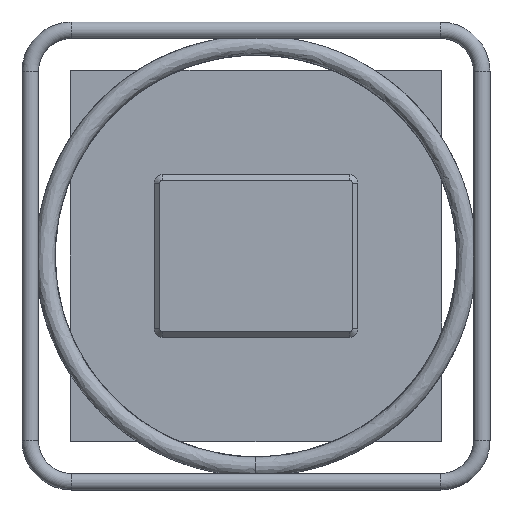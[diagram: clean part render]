
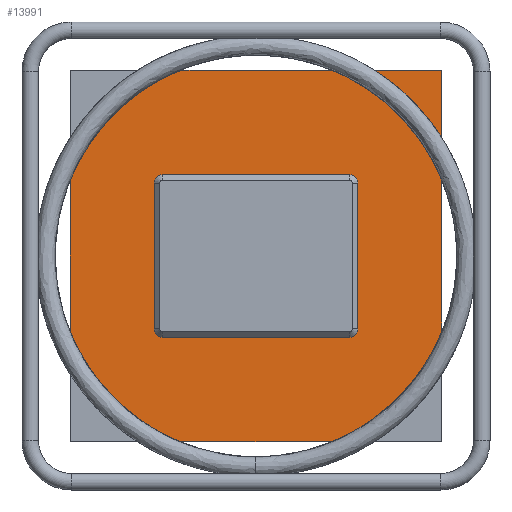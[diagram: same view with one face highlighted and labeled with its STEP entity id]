
A CAD part, front view. The second image highlights one B-rep face of the part: STEP entity #13991.
In plain terms, the highlighted planar face has unit normal (0, -1, 0).
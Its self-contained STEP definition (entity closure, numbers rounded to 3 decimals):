
#2148=LINE('',#27886,#3318);
#2151=LINE('',#27897,#3321);
#2155=LINE('',#27909,#3325);
#2159=LINE('',#27921,#3329);
#2166=LINE('',#27936,#3336);
#2167=LINE('',#27937,#3337);
#2168=LINE('',#27939,#3338);
#2169=LINE('',#27940,#3339);
#3318=VECTOR('',#16476,136.);
#3321=VECTOR('',#16487,106.);
#3325=VECTOR('',#16499,136.);
#3329=VECTOR('',#16511,106.);
#3336=VECTOR('',#16534,144.);
#3337=VECTOR('',#16535,144.);
#3338=VECTOR('',#16536,207.);
#3339=VECTOR('',#16537,207.);
#3687=PLANE('',#14456);
#3835=FACE_BOUND('',#5409,.T.);
#4564=FACE_OUTER_BOUND('',#5408,.T.);
#5408=EDGE_LOOP('',(#12433,#12434,#12435,#12436,#12437,#12438,#12439));
#5409=EDGE_LOOP('',(#12440,#12441,#12442,#12443,#12444,#12445,#12446,#12447));
#5474=CIRCLE('',#14383,153.);
#5475=CIRCLE('',#14384,153.);
#5476=CIRCLE('',#14385,153.);
#5500=CIRCLE('',#14438,6.);
#5502=CIRCLE('',#14442,6.);
#5504=CIRCLE('',#14446,6.);
#5506=CIRCLE('',#14450,6.);
#6736=VERTEX_POINT('',#27771);
#6737=VERTEX_POINT('',#27772);
#6738=VERTEX_POINT('',#27774);
#6739=VERTEX_POINT('',#27775);
#6740=VERTEX_POINT('',#27777);
#6741=VERTEX_POINT('',#27778);
#6776=VERTEX_POINT('',#27879);
#6779=VERTEX_POINT('',#27884);
#6781=VERTEX_POINT('',#27889);
#6783=VERTEX_POINT('',#27895);
#6785=VERTEX_POINT('',#27901);
#6787=VERTEX_POINT('',#27907);
#6789=VERTEX_POINT('',#27913);
#6791=VERTEX_POINT('',#27919);
#6792=VERTEX_POINT('',#27938);
#8615=EDGE_CURVE('',#6736,#6737,#5474,.T.);
#8616=EDGE_CURVE('',#6738,#6739,#5475,.T.);
#8617=EDGE_CURVE('',#6740,#6741,#5476,.T.);
#8658=EDGE_CURVE('',#6779,#6776,#2148,.T.);
#8660=EDGE_CURVE('',#6781,#6779,#5500,.T.);
#8663=EDGE_CURVE('',#6783,#6781,#2151,.T.);
#8666=EDGE_CURVE('',#6785,#6783,#5502,.T.);
#8669=EDGE_CURVE('',#6787,#6785,#2155,.T.);
#8672=EDGE_CURVE('',#6789,#6787,#5504,.T.);
#8675=EDGE_CURVE('',#6791,#6789,#2159,.T.);
#8677=EDGE_CURVE('',#6776,#6791,#5506,.T.);
#8684=EDGE_CURVE('',#6738,#6737,#2166,.T.);
#8685=EDGE_CURVE('',#6740,#6739,#2167,.T.);
#8686=EDGE_CURVE('',#6792,#6741,#2168,.T.);
#8687=EDGE_CURVE('',#6736,#6792,#2169,.T.);
#12433=ORIENTED_EDGE('',*,*,#8615,.T.);
#12434=ORIENTED_EDGE('',*,*,#8684,.F.);
#12435=ORIENTED_EDGE('',*,*,#8616,.T.);
#12436=ORIENTED_EDGE('',*,*,#8685,.F.);
#12437=ORIENTED_EDGE('',*,*,#8617,.T.);
#12438=ORIENTED_EDGE('',*,*,#8686,.F.);
#12439=ORIENTED_EDGE('',*,*,#8687,.F.);
#12440=ORIENTED_EDGE('',*,*,#8658,.F.);
#12441=ORIENTED_EDGE('',*,*,#8660,.F.);
#12442=ORIENTED_EDGE('',*,*,#8663,.F.);
#12443=ORIENTED_EDGE('',*,*,#8666,.F.);
#12444=ORIENTED_EDGE('',*,*,#8669,.F.);
#12445=ORIENTED_EDGE('',*,*,#8672,.F.);
#12446=ORIENTED_EDGE('',*,*,#8675,.F.);
#12447=ORIENTED_EDGE('',*,*,#8677,.F.);
#13991=ADVANCED_FACE('',(#4564,#3835),#3687,.F.);
#14383=AXIS2_PLACEMENT_3D('',#27773,#16351,#16352);
#14384=AXIS2_PLACEMENT_3D('',#27776,#16353,#16354);
#14385=AXIS2_PLACEMENT_3D('',#27779,#16355,#16356);
#14438=AXIS2_PLACEMENT_3D('',#27891,#16480,#16481);
#14442=AXIS2_PLACEMENT_3D('',#27903,#16492,#16493);
#14446=AXIS2_PLACEMENT_3D('',#27915,#16504,#16505);
#14450=AXIS2_PLACEMENT_3D('',#27924,#16515,#16516);
#14456=AXIS2_PLACEMENT_3D('',#27935,#16532,#16533);
#16351=DIRECTION('center_axis',(0.,-1.,0.));
#16352=DIRECTION('ref_axis',(0.,0.,-1.));
#16353=DIRECTION('center_axis',(0.,-1.,0.));
#16354=DIRECTION('ref_axis',(0.,0.,-1.));
#16355=DIRECTION('center_axis',(0.,-1.,0.));
#16356=DIRECTION('ref_axis',(0.,0.,-1.));
#16476=DIRECTION('',(-1.,0.,0.));
#16480=DIRECTION('center_axis',(0.,-1.,0.));
#16481=DIRECTION('ref_axis',(1.,0.,0.));
#16487=DIRECTION('',(0.,0.,1.));
#16492=DIRECTION('center_axis',(0.,-1.,0.));
#16493=DIRECTION('ref_axis',(0.,0.,-1.));
#16499=DIRECTION('',(1.,0.,0.));
#16504=DIRECTION('center_axis',(0.,-1.,0.));
#16505=DIRECTION('ref_axis',(-1.,0.,0.));
#16511=DIRECTION('',(0.,0.,-1.));
#16515=DIRECTION('center_axis',(0.,-1.,0.));
#16516=DIRECTION('ref_axis',(0.,0.,1.));
#16532=DIRECTION('center_axis',(0.,1.,0.));
#16533=DIRECTION('ref_axis',(0.,0.,1.));
#16534=DIRECTION('',(0.,0.,1.));
#16535=DIRECTION('',(-1.,0.,0.));
#16536=DIRECTION('',(0.,0.,-1.));
#16537=DIRECTION('',(1.,0.,0.));
#27771=CARTESIAN_POINT('',(-72.,0.,135.));
#27772=CARTESIAN_POINT('',(-135.,0.,72.));
#27773=CARTESIAN_POINT('Origin',(0.,0.,0.));
#27774=CARTESIAN_POINT('',(-135.,0.,-72.));
#27775=CARTESIAN_POINT('',(-72.,0.,-135.));
#27776=CARTESIAN_POINT('Origin',(0.,0.,0.));
#27777=CARTESIAN_POINT('',(72.,0.,-135.));
#27778=CARTESIAN_POINT('',(135.,0.,-72.));
#27779=CARTESIAN_POINT('Origin',(0.,0.,0.));
#27879=CARTESIAN_POINT('',(-68.,0.,59.));
#27884=CARTESIAN_POINT('',(68.,0.,59.));
#27886=CARTESIAN_POINT('',(-34.,0.,59.));
#27889=CARTESIAN_POINT('',(74.,0.,53.));
#27891=CARTESIAN_POINT('Origin',(68.,0.,53.));
#27895=CARTESIAN_POINT('',(74.,0.,-53.));
#27897=CARTESIAN_POINT('',(74.,0.,26.5));
#27901=CARTESIAN_POINT('',(68.,0.,-59.));
#27903=CARTESIAN_POINT('Origin',(68.,0.,-53.));
#27907=CARTESIAN_POINT('',(-68.,0.,-59.));
#27909=CARTESIAN_POINT('',(34.,0.,-59.));
#27913=CARTESIAN_POINT('',(-74.,0.,-53.));
#27915=CARTESIAN_POINT('Origin',(-68.,0.,-53.));
#27919=CARTESIAN_POINT('',(-74.,0.,53.));
#27921=CARTESIAN_POINT('',(-74.,0.,-26.5));
#27924=CARTESIAN_POINT('Origin',(-68.,0.,53.));
#27935=CARTESIAN_POINT('Origin',(0.,0.,0.));
#27936=CARTESIAN_POINT('',(-135.,0.,-135.));
#27937=CARTESIAN_POINT('',(135.,0.,-135.));
#27938=CARTESIAN_POINT('',(135.,0.,135.));
#27939=CARTESIAN_POINT('',(135.,0.,135.));
#27940=CARTESIAN_POINT('',(-135.,0.,135.));
